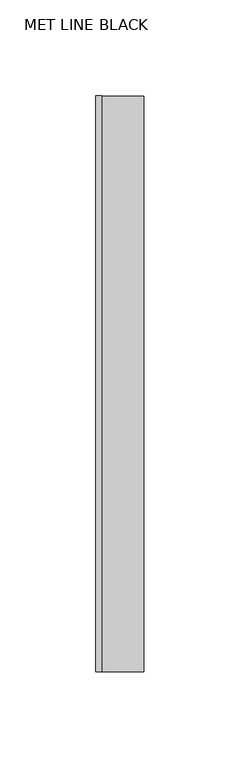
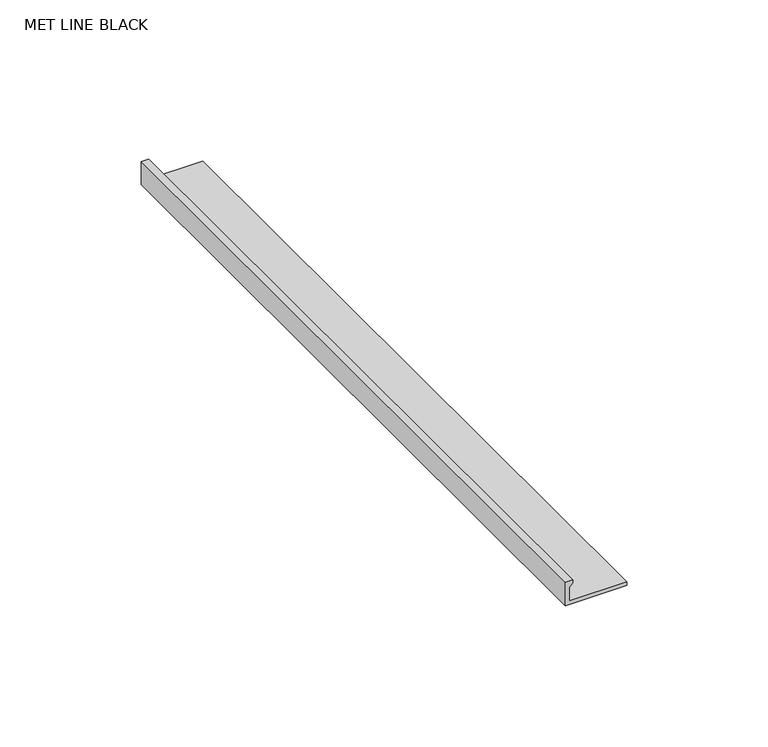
"""IFC4 building model written with IfcOpenShell, lengths in millimetres: proxy geometry, PORTOBELLO - METALLICA MET LINE 0,3X120 : MET LINE BLACK."""

from ifc_helpers import new_model, si_unit, frame, origin, place, context, project, spatial, polyline, outline, extrude, source, transform, mapped, element, save


def met_line_black_524d391c(model_context):
    return source(origin(), model_context, "Body", "SweptSolid", [
        extrude(outline(polyline([(2.6984894, 3.0), (2.6984894, 0.0), (-7.3015106, 0.0), (-7.3015106, 25.0), (-5.8015106, 25.0), (-5.8015106, 1.5), (0.0, 1.5), (1.5, 3.0), (2.6984894, 3.0)])), frame((0.0, -600.0, 0.0), z_axis=(0.0, 1.0, 0.0), x_axis=(0.0, 0.0, 1.0)), (0.0, 0.0, 1.0), 300.0),
    ])


if __name__ == "__main__":
    model = new_model("IFC4")
    model_context = context("Model", 3, world=origin())
    ifc_project = project(units=[si_unit("LENGTHUNIT", "METRE", prefix="MILLI")], contexts=[model_context])
    site = spatial("IfcSite", under=ifc_project)
    building = spatial("IfcBuilding", under=site)
    placement = place(None, origin())
    met_line_black_shape = met_line_black_524d391c(model_context)
    element("IfcBuildingElementProxy", 1, Name="PORTOBELLO - METALLICA MET LINE 0,3X120 : MET LINE BLACK", ObjectType="PORTOBELLO - METALLICA MET LINE 0,3X120 : MET LINE BLACK", at=placement, inside=building, context=model_context, shape_type="MappedRepresentation", body=[
        mapped(met_line_black_shape, transform((0.0, 0.0, 0.0), x_axis=(1.0, 0.0, 0.0), y_axis=(0.0, 1.0, 0.0), z_axis=(0.0, 0.0, 1.0))),
    ])
    save(model, "model.ifc")
